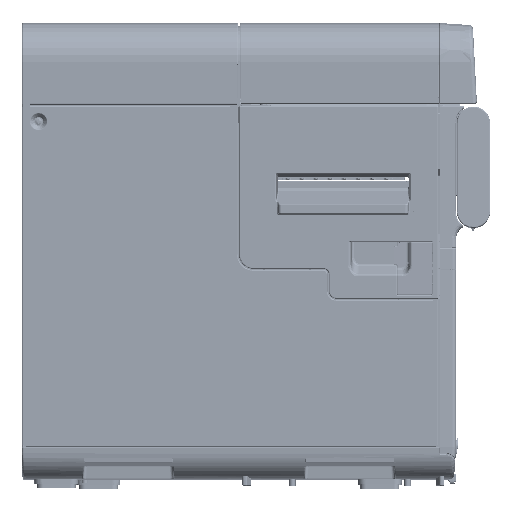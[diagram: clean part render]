
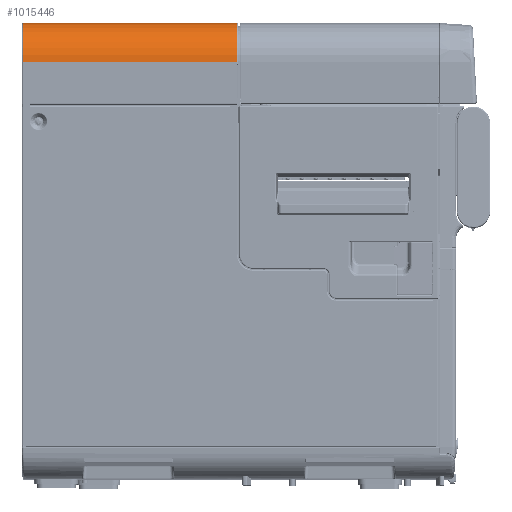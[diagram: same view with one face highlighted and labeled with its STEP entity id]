
A CAD part, top view. The second image highlights one B-rep face of the part: STEP entity #1015446.
In plain terms, the highlighted cylindrical face has radius 35 mm (diameter 70 mm), a partial arc.
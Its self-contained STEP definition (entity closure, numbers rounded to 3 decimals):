
#1008628=CARTESIAN_POINT('',(-39.8,108.,155.));
#1008629=DIRECTION('',(-1.,0.,0.));
#1008630=DIRECTION('',(0.,0.,1.));
#1008631=AXIS2_PLACEMENT_3D('',#1008628,#1008629,#1008630);
#1010862=CARTESIAN_POINT('',(-233.2,108.,155.));
#1010863=DIRECTION('',(1.,0.,0.));
#1010864=DIRECTION('',(0.,1.,0.));
#1010865=AXIS2_PLACEMENT_3D('',#1010862,#1010863,#1010864);
#1011339=DIRECTION('',(-1.,0.,0.));
#1011340=VECTOR('',#1011339,193.4);
#1011341=CARTESIAN_POINT('',(-39.8,108.,190.));
#1011342=LINE('',#1011341,#1011340);
#1011343=DIRECTION('',(1.,0.,0.));
#1011344=VECTOR('',#1011343,193.4);
#1011345=CARTESIAN_POINT('',(-233.2,143.,155.));
#1011346=LINE('',#1011345,#1011344);
#1013225=CARTESIAN_POINT('',(-39.8,143.,155.));
#1013226=VERTEX_POINT('',#1013225);
#1013227=CARTESIAN_POINT('',(-233.2,143.,155.));
#1013228=VERTEX_POINT('',#1013227);
#1013245=CARTESIAN_POINT('',(-39.8,108.,190.));
#1013246=VERTEX_POINT('',#1013245);
#1013247=CARTESIAN_POINT('',(-233.2,108.,190.));
#1013248=VERTEX_POINT('',#1013247);
#1015435=CARTESIAN_POINT('',(-39.,108.,155.));
#1015436=DIRECTION('',(1.,0.,0.));
#1015437=DIRECTION('',(0.,0.,-1.));
#1015438=AXIS2_PLACEMENT_3D('',#1015435,#1015436,#1015437);
#1015439=CYLINDRICAL_SURFACE('',#1015438,35.);
#1015440=ORIENTED_EDGE('',*,*,#1014171,.F.);
#1015441=ORIENTED_EDGE('',*,*,#1014213,.T.);
#1015442=ORIENTED_EDGE('',*,*,#1015275,.F.);
#1015443=ORIENTED_EDGE('',*,*,#1013806,.T.);
#1015444=EDGE_LOOP('',(#1015440,#1015441,#1015442,#1015443));
#1015445=FACE_OUTER_BOUND('',#1015444,.F.);
#1008632=CIRCLE('',#1008631,35.);
#1010866=CIRCLE('',#1010865,35.);
#1013806=EDGE_CURVE('',#1013228,#1013226,#1011346,.T.);
#1014171=EDGE_CURVE('',#1013246,#1013226,#1008632,.T.);
#1014213=EDGE_CURVE('',#1013246,#1013248,#1011342,.T.);
#1015275=EDGE_CURVE('',#1013228,#1013248,#1010866,.T.);
#1015446=ADVANCED_FACE('',(#1015445),#1015439,.T.);
